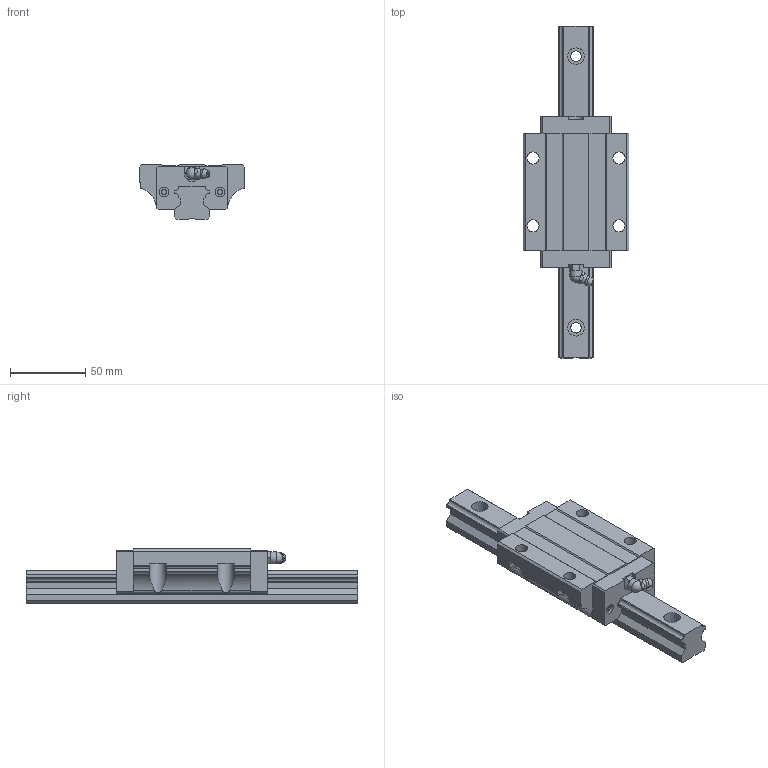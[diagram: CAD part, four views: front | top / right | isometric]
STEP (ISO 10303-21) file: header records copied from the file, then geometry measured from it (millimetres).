
FILE_DESCRIPTION(/* description */ (''),/* implementation_level */ '2;1');
FILE_NAME(/* name */ 'MSA25LE',/* time_stamp */ '2005-12-26T15:45:04+08:00',/* author */ (''),/* organization */ (''),/* preprocessor_version */ 'ST-DEVELOPER v9',/* originating_system */ 'UGS - NX 3.0',/* authorisation */ '');
FILE_SCHEMA (('CONFIG_CONTROL_DESIGN'));
Length unit declared in the file: millimetre
Products named in the file (1): kevi37F33gsi
Bounding box: 70 x 220 x 36 mm (x, y, z)
Volume: 224020 mm3; surface area: 49993.9 mm2
Topology: 3 solids, 3 shells, 230 faces, 626 edges, 410 vertices
Faces by surface type: plane 158, cylinder 61, torus 7, sphere 2, cone 1, bspline 1
Full cylindrical faces by diameter (mm): 3.25 x4, 6.5 x4, 7 x4, 8 x5, 11 x4
Entity records: 7416 total; most frequent: CARTESIAN_POINT 1544, DIRECTION 1197, ORIENTED_EDGE 1184, EDGE_CURVE 592, AXIS2_PLACEMENT_3D 405, VERTEX_POINT 402, LINE 387, VECTOR 387
